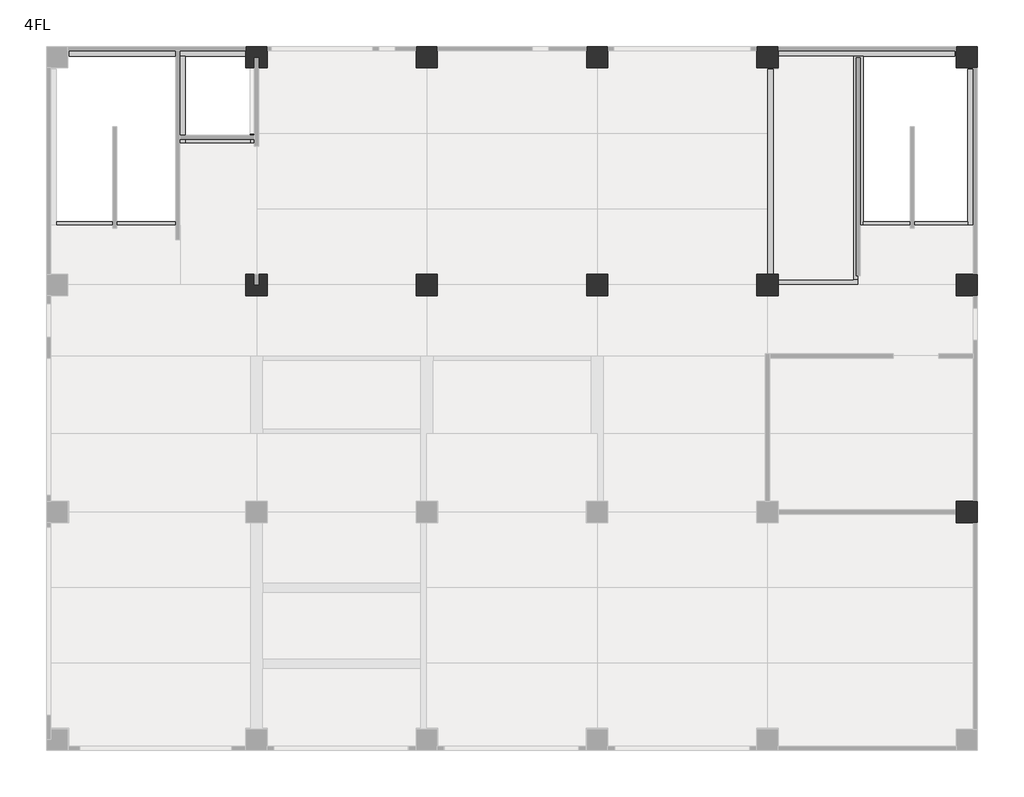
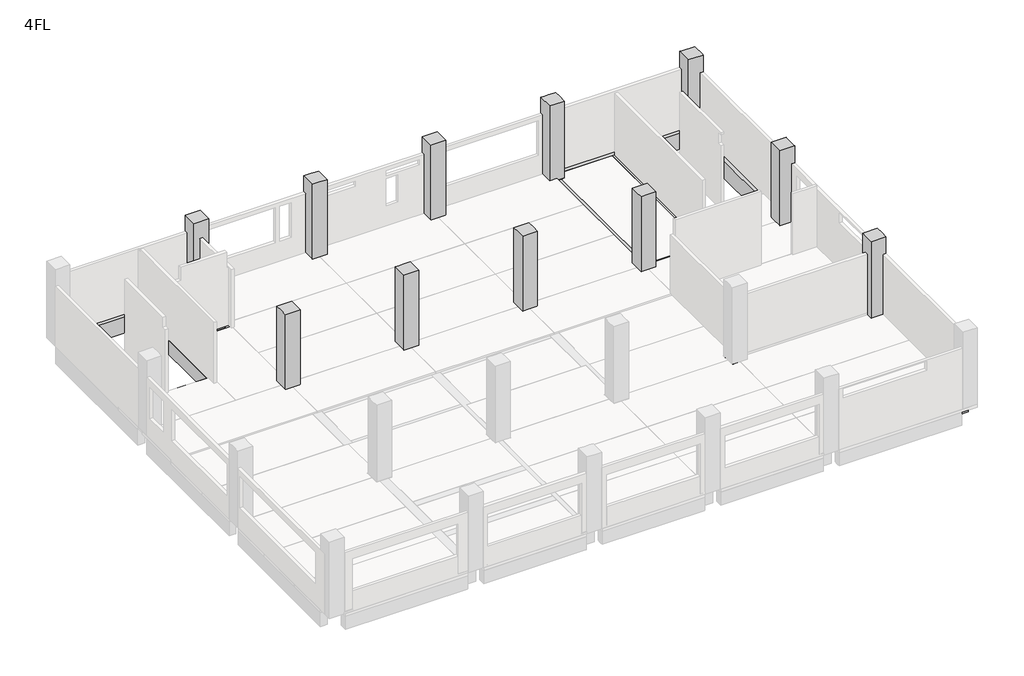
# One storey, part 4 of 4: 30 beams, 11 columns.
"""IFC4 building model written with IfcOpenShell, lengths in millimetres."""

from ifc_helpers import new_model, si_unit, frame, origin, place, context, project, spatial, polyline, outline, extrude, faceted_brep, element, save

model = new_model("IFC4")

# Units and contexts
model_context = context("Model", 3, world=origin())
ifc_project = project(units=[si_unit("LENGTHUNIT", "METRE", prefix="MILLI")], contexts=[model_context])

# Site, building, storey
site = spatial("IfcSite", under=ifc_project)
building = spatial("IfcBuilding", under=site)
storey = spatial("IfcBuildingStorey", under=building, Name="4FL", Elevation=12300.0)

# Beams
placement = place(None, origin())
element("IfcBeam", 1, ObjectType="RC_B : 4G1", at=placement, inside=storey, context=model_context, shape_type="Brep", body=[
    faceted_brep([(6600.0, 24400.0, 12200.0), (6600.0, 24400.0, 11350.0), (400.0, 24400.0, 11350.0), (400.0, 24400.0, 12200.0), (6600.0, 24250.0, 11350.0), (6600.0, 24050.0, 11350.0), (4294.0, 24050.0, 11350.0), (4144.0, 24050.0, 11350.0), (400.0, 24050.0, 11350.0), (400.0, 24250.0, 11350.0), (6600.0, 24050.0, 12200.0), (4494.0, 24050.0, 12200.0), (4144.0, 24050.0, 12200.0), (400.0, 24050.0, 12200.0)], [[[0, 1, 2, 3]], [[1, 4, 5, 6, 7, 8, 9, 2]], [[5, 10, 11, 12, 13, 8, 7, 6]], [[10, 0, 3, 13, 12, 11]], [[1, 0, 10, 5, 4]], [[3, 2, 9, 8, 13]]]),
])
element("IfcBeam", 2, ObjectType="RC_B : 4G1", at=placement, inside=storey, context=model_context, shape_type="Brep", body=[
    faceted_brep([(12600.0, 24400.0, 12140.0), (12600.0, 24400.0, 11350.0), (7400.0, 24400.0, 11350.0), (7400.0, 24400.0, 12140.0), (12600.0, 24250.0, 11350.0), (12600.0, 24050.0, 11350.0), (7400.0, 24050.0, 11350.0), (7400.0, 24250.0, 11350.0), (12600.0, 24050.0, 12140.0), (7400.0, 24050.0, 12140.0)], [[[0, 1, 2, 3]], [[1, 4, 5, 6, 7, 2]], [[5, 8, 9, 6]], [[5, 4, 1, 0, 8]], [[8, 0, 3, 9]], [[3, 2, 7, 6, 9]]]),
])
element("IfcBeam", 3, ObjectType="RC_B : 4G1", at=placement, inside=storey, context=model_context, shape_type="Brep", body=[
    faceted_brep([(18600.0, 24400.0, 12140.0), (18600.0, 24400.0, 11350.0), (13400.0, 24400.0, 11350.0), (13400.0, 24400.0, 12140.0), (18600.0, 24250.0, 11350.0), (18600.0, 24050.0, 11350.0), (13400.0, 24050.0, 11350.0), (13400.0, 24250.0, 11350.0), (18600.0, 24050.0, 12140.0), (13400.0, 24050.0, 12140.0)], [[[0, 1, 2, 3]], [[1, 4, 5, 6, 7, 2]], [[5, 8, 9, 6]], [[5, 4, 1, 0, 8]], [[8, 0, 3, 9]], [[3, 2, 7, 6, 9]]]),
])
element("IfcBeam", 4, ObjectType="RC_B : 4G1", at=placement, inside=storey, context=model_context, shape_type="Brep", body=[
    faceted_brep([(24600.0, 24400.0, 12140.0), (24600.0, 24400.0, 11350.0), (19400.0, 24400.0, 11350.0), (19400.0, 24400.0, 12140.0), (24600.0, 24250.0, 11350.0), (24600.0, 24050.0, 11350.0), (19400.0, 24050.0, 11350.0), (19400.0, 24250.0, 11350.0), (24600.0, 24050.0, 12140.0), (19400.0, 24050.0, 12140.0)], [[[0, 1, 2, 3]], [[1, 4, 5, 6, 7, 2]], [[5, 8, 9, 6]], [[5, 4, 1, 0, 8]], [[8, 0, 3, 9]], [[3, 2, 7, 6, 9]]]),
])
element("IfcBeam", 5, ObjectType="RC_B : 4G1", at=placement, inside=storey, context=model_context, shape_type="Brep", body=[
    faceted_brep([(31600.0, 24400.0, 12200.0), (31600.0, 24400.0, 11350.0), (25400.0, 24400.0, 11350.0), (25400.0, 24400.0, 12200.0), (31600.0, 24250.0, 11350.0), (31600.0, 24050.0, 11350.0), (25400.0, 24050.0, 11350.0), (25400.0, 24250.0, 11350.0), (31600.0, 24050.0, 12200.0), (28374.0, 24050.0, 12200.0), (28024.0, 24050.0, 12200.0), (25400.0, 24050.0, 12200.0), (25400.0, 24050.0, 12050.0)], [[[0, 1, 2, 3]], [[1, 4, 5, 6, 7, 2]], [[5, 8, 9, 10, 11, 12, 6]], [[8, 0, 3, 11, 10, 9]], [[1, 0, 8, 5, 4]], [[3, 2, 7, 6, 12, 11]]]),
])
element("IfcBeam", 6, ObjectType="RC_B : 4G11", at=placement, inside=storey, context=model_context, shape_type="Brep", body=[
    faceted_brep([(32050.0, 7600.0, 12050.0), (32050.0, 7600.0, 11300.0), (32050.0, 400.0, 11300.0), (32050.0, 400.0, 12050.0), (32050.0, 2485.0, 12050.0), (32050.0, 2835.0, 12050.0), (32050.0, 5155.0, 12050.0), (32050.0, 5505.0, 12050.0), (32250.0, 7600.0, 11300.0), (32400.0, 7600.0, 11300.0), (32400.0, 400.0, 11300.0), (32250.0, 400.0, 11300.0), (32400.0, 7600.0, 12050.0), (32400.0, 5328.0, 12050.0), (32400.0, 2664.0, 12050.0), (32400.0, 400.0, 12050.0)], [[[0, 1, 2, 3, 4, 5, 6, 7]], [[1, 8, 9, 10, 11, 2]], [[9, 12, 13, 14, 15, 10]], [[9, 8, 1, 0, 12]], [[12, 0, 7, 6, 5, 4, 3, 15, 14, 13]], [[3, 2, 11, 10, 15]]]),
])
element("IfcBeam", 7, ObjectType="RC_B : 4G11", at=placement, inside=storey, context=model_context, shape_type="Brep", body=[
    faceted_brep([(32050.0, 15600.0, 12140.0), (32050.0, 15600.0, 11300.0), (32050.0, 13575.0, 11300.0), (32050.0, 13575.0, 11450.0), (32050.0, 13425.0, 11450.0), (32050.0, 13425.0, 11300.0), (32050.0, 8400.0, 11300.0), (32050.0, 8400.0, 12140.0), (32050.0, 10575.0, 12140.0), (32050.0, 10925.0, 12140.0), (32050.0, 13325.0, 12140.0), (32050.0, 13675.0, 12140.0), (32250.0, 15600.0, 11300.0), (32400.0, 15600.0, 11300.0), (32400.0, 8400.0, 11300.0), (32250.0, 8400.0, 11300.0), (32250.0, 13425.0, 11300.0), (32250.0, 13575.0, 11300.0), (32400.0, 15600.0, 12140.0), (32400.0, 13504.0, 12140.0), (32400.0, 10752.0, 12140.0), (32400.0, 8400.0, 12140.0), (32250.0, 13575.0, 11450.0), (32250.0, 13425.0, 11450.0)], [[[0, 1, 2, 3, 4, 5, 6, 7, 8, 9, 10, 11]], [[1, 12, 13, 14, 15, 6, 5, 16, 17, 2]], [[13, 18, 19, 20, 21, 14]], [[13, 12, 1, 0, 18]], [[18, 0, 11, 10, 9, 8, 7, 21, 20, 19]], [[7, 6, 15, 14, 21]], [[17, 22, 3, 2]], [[4, 23, 16, 5]], [[22, 23, 4, 3]], [[23, 22, 17, 16]]]),
])
element("IfcBeam", 8, ObjectType="RC_B : 4G11", at=placement, inside=storey, context=model_context, shape_type="Brep", body=[
    faceted_brep([(32050.0, 23600.0, 12200.0), (32050.0, 23600.0, 11300.0), (32050.0, 16400.0, 11300.0), (32050.0, 16400.0, 12140.0), (32050.0, 17975.0, 12140.0), (32050.0, 18100.0, 12140.0), (32050.0, 18100.0, 12200.0), (32050.0, 18225.0, 12200.0), (32250.0, 23600.0, 11300.0), (32400.0, 23600.0, 11300.0), (32400.0, 16400.0, 11300.0), (32250.0, 16400.0, 11300.0), (32400.0, 23600.0, 12200.0), (32400.0, 18100.0, 12200.0), (32400.0, 18100.0, 12140.0), (32400.0, 16400.0, 12140.0), (32250.0, 18100.0, 12200.0)], [[[0, 1, 2, 3, 4, 5, 6, 7]], [[1, 8, 9, 10, 11, 2]], [[9, 12, 13, 14, 15, 10]], [[12, 0, 7, 6, 16, 13]], [[1, 0, 12, 9, 8]], [[14, 5, 4, 3, 15]], [[5, 14, 13, 16, 6]], [[3, 2, 11, 10, 15]]]),
])
element("IfcBeam", 9, ObjectType="RC_B : 4G12", at=placement, inside=storey, context=model_context, shape_type="Brep", body=[
    faceted_brep([(6775.0, 23600.0, 11300.0), (6775.0, 21275.0, 11300.0), (6775.0, 21125.0, 11300.0), (6775.0, 16000.0, 11300.0), (6775.0, 16000.0, 11350.0), (6775.0, 16175.0, 11350.0), (6775.0, 16175.0, 12140.0), (6775.0, 21000.0, 12140.0), (6775.0, 21000.0, 12200.0), (6775.0, 21125.0, 12200.0), (6775.0, 21275.0, 12200.0), (6775.0, 21328.0, 12200.0), (6775.0, 21328.0, 12140.0), (6775.0, 23600.0, 12140.0), (6925.0, 23600.0, 11300.0), (7075.0, 23600.0, 11300.0), (7225.0, 23600.0, 11300.0), (7225.0, 16000.0, 11300.0), (7225.0, 23600.0, 12140.0), (7225.0, 21503.0, 12140.0), (7225.0, 21503.0, 11450.0), (7225.0, 21153.0, 11450.0), (7225.0, 21153.0, 12140.0), (7225.0, 18845.0, 12140.0), (7225.0, 18845.0, 11450.0), (7225.0, 18495.0, 11450.0), (7225.0, 18495.0, 12140.0), (7225.0, 16175.0, 12140.0), (7225.0, 16000.0, 12140.0), (7000.0, 21000.0, 12200.0), (7000.0, 21328.0, 12200.0), (7000.0, 16000.0, 12140.0), (7000.0, 16000.0, 11350.0), (7000.0, 16175.0, 11350.0), (7000.0, 16175.0, 12140.0), (7087.7, 18495.0, 12140.0), (7087.7, 18664.0, 12140.0), (7087.7, 18845.0, 12140.0), (7087.7, 21153.0, 12140.0), (7087.7, 21328.0, 12140.0), (7087.7, 21503.0, 12140.0), (7000.0, 21328.0, 12140.0), (7000.0, 21000.0, 12140.0), (6912.3, 21000.0, 12140.0), (7087.7, 18495.0, 11450.0), (7087.7, 18845.0, 11450.0), (7087.7, 21153.0, 11450.0), (7087.7, 21503.0, 11450.0)], [[[0, 1, 2, 3, 4, 5, 6, 7, 8, 9, 10, 11, 12, 13]], [[0, 14, 15, 16, 17, 3, 2, 1]], [[17, 16, 18, 19, 20, 21, 22, 23, 24, 25, 26, 27, 28]], [[8, 29, 30, 11, 10, 9]], [[16, 15, 14, 0, 13, 18]], [[3, 17, 28, 31, 32, 4]], [[5, 33, 34, 6]], [[33, 5, 4, 32]], [[33, 32, 31, 34]], [[31, 28, 27, 26, 35, 36, 37, 23, 22, 38, 39, 40, 19, 18, 13, 12, 41, 42, 43, 7, 6, 34]], [[41, 30, 29, 42]], [[30, 41, 12, 11]], [[7, 43, 42, 29, 8]], [[44, 45, 37, 36, 35]], [[45, 24, 23, 37]], [[45, 44, 25, 24]], [[25, 44, 35, 26]], [[46, 47, 40, 39, 38]], [[47, 20, 19, 40]], [[47, 46, 21, 20]], [[21, 46, 38, 22]]]),
])
element("IfcBeam", 10, ObjectType="RC_B : 4G12", at=placement, inside=storey, context=model_context, shape_type="Brep", body=[
    faceted_brep([(12775.0, 23600.0, 11300.0), (12775.0, 16000.0, 11300.0), (12775.0, 16000.0, 11350.0), (12775.0, 16175.0, 11350.0), (12775.0, 16175.0, 12140.0), (12775.0, 21153.0, 12140.0), (12775.0, 21153.0, 11450.0), (12775.0, 21503.0, 11450.0), (12775.0, 21503.0, 12140.0), (12775.0, 23600.0, 12140.0), (13225.0, 23600.0, 11300.0), (13225.0, 16000.0, 11300.0), (13225.0, 23600.0, 12140.0), (13225.0, 21503.0, 12140.0), (13225.0, 21503.0, 11450.0), (13225.0, 21153.0, 11450.0), (13225.0, 21153.0, 12140.0), (13225.0, 16175.0, 12140.0), (13225.0, 16000.0, 12140.0), (13000.0, 23600.0, 12140.0), (13000.0, 16000.0, 12140.0), (13000.0, 16000.0, 11350.0), (13000.0, 16175.0, 11350.0), (13000.0, 16175.0, 12140.0), (13000.0, 21153.0, 12140.0), (13000.0, 21503.0, 12140.0)], [[[0, 1, 2, 3, 4, 5, 6, 7, 8, 9]], [[0, 10, 11, 1]], [[11, 10, 12, 13, 14, 15, 16, 17, 18]], [[10, 0, 9, 19, 12]], [[1, 11, 18, 20, 21, 2]], [[3, 22, 23, 4]], [[22, 3, 2, 21]], [[22, 21, 20, 23]], [[4, 23, 20, 18, 17, 16, 24, 5]], [[7, 14, 13, 25, 8]], [[14, 7, 6, 15]], [[15, 6, 5, 24, 16]], [[12, 19, 9, 8, 25, 13]]]),
])
element("IfcBeam", 11, ObjectType="RC_B : 4G12", at=placement, inside=storey, context=model_context, shape_type="Brep", body=[
    faceted_brep([(18775.0, 23600.0, 11300.0), (18775.0, 16000.0, 11300.0), (18775.0, 16000.0, 11350.0), (18775.0, 16175.0, 11350.0), (18775.0, 16175.0, 12140.0), (18775.0, 21153.0, 12140.0), (18775.0, 21153.0, 11450.0), (18775.0, 21503.0, 11450.0), (18775.0, 21503.0, 12140.0), (18775.0, 23600.0, 12140.0), (19225.0, 23600.0, 11300.0), (19225.0, 16000.0, 11300.0), (19225.0, 23600.0, 12140.0), (19225.0, 21503.0, 12140.0), (19225.0, 21503.0, 11450.0), (19225.0, 21153.0, 11450.0), (19225.0, 21153.0, 12140.0), (19225.0, 16175.0, 12140.0), (19225.0, 16000.0, 12140.0), (19000.0, 23600.0, 12140.0), (19000.0, 16000.0, 12140.0), (19000.0, 16000.0, 11350.0), (19000.0, 16175.0, 11350.0), (19000.0, 16175.0, 12140.0), (19000.0, 21153.0, 12140.0), (19000.0, 21503.0, 12140.0)], [[[0, 1, 2, 3, 4, 5, 6, 7, 8, 9]], [[0, 10, 11, 1]], [[11, 10, 12, 13, 14, 15, 16, 17, 18]], [[10, 0, 9, 19, 12]], [[1, 11, 18, 20, 21, 2]], [[3, 22, 23, 4]], [[22, 3, 2, 21]], [[22, 21, 20, 23]], [[4, 23, 20, 18, 17, 16, 24, 5]], [[7, 14, 13, 25, 8]], [[14, 7, 6, 15]], [[15, 6, 5, 24, 16]], [[12, 19, 9, 8, 25, 13]]]),
])
element("IfcBeam", 12, ObjectType="RC_B : 4G12", at=placement, inside=storey, context=model_context, shape_type="Brep", body=[
    faceted_brep([(24775.0, 15600.0, 11300.0), (24775.0, 8000.0, 11300.0), (24775.0, 8000.0, 11350.0), (24775.0, 8175.0, 11350.0), (24775.0, 8175.0, 12050.0), (24775.0, 10575.0, 12050.0), (24775.0, 10925.0, 12050.0), (24775.0, 13325.0, 12050.0), (24775.0, 13325.0, 11450.0), (24775.0, 13675.0, 11450.0), (24775.0, 13675.0, 12140.0), (24775.0, 15600.0, 12140.0), (25225.0, 15600.0, 11300.0), (25225.0, 8075.0, 11300.0), (24925.0, 8075.0, 11300.0), (24925.0, 8000.0, 11300.0), (25225.0, 15600.0, 12140.0), (25225.0, 13675.0, 12140.0), (25225.0, 13325.0, 12140.0), (25225.0, 10925.0, 12140.0), (25225.0, 10575.0, 12140.0), (25225.0, 8175.0, 12140.0), (25225.0, 8000.0, 12140.0), (25225.0, 8000.0, 12050.0), (25225.0, 8000.0, 11350.0), (25225.0, 8075.0, 11350.0), (25000.0, 15600.0, 12140.0), (25000.0, 8000.0, 12140.0), (25000.0, 8000.0, 11350.0), (25000.0, 8175.0, 11350.0), (25000.0, 8175.0, 12050.0), (24925.0, 8000.0, 11350.0), (24925.0, 8075.0, 11350.0), (25000.0, 8075.0, 11350.0), (25000.0, 8400.0, 12140.0), (25000.0, 10752.0, 12140.0), (25000.0, 13504.0, 12140.0), (25000.0, 13504.0, 12050.0), (25000.0, 10752.0, 12050.0), (25000.0, 8400.0, 12050.0), (24912.3, 13675.0, 12140.0), (24912.3, 13504.0, 12140.0), (24912.3, 13504.0, 12050.0), (24912.3, 13325.0, 12050.0), (24912.3, 13675.0, 11450.0), (24912.3, 13325.0, 11450.0)], [[[0, 1, 2, 3, 4, 5, 6, 7, 8, 9, 10, 11]], [[0, 12, 13, 14, 15, 1]], [[12, 16, 17, 18, 19, 20, 21, 22, 23, 24, 25, 13]], [[12, 0, 11, 26, 16]], [[27, 28, 24, 23, 22]], [[3, 29, 30, 4]], [[29, 3, 2, 31, 32, 33]], [[30, 29, 33, 28, 27, 34, 35, 36, 37, 38, 39]], [[16, 26, 11, 10, 40, 41, 36, 35, 34, 27, 22, 21, 20, 19, 18, 17]], [[4, 30, 39, 38, 37, 42, 43, 7, 6, 5]], [[37, 36, 41, 42]], [[14, 13, 25, 33, 32]], [[25, 24, 28, 33]], [[2, 1, 15, 31]], [[14, 32, 31, 15]], [[9, 44, 40, 10]], [[45, 44, 9, 8]], [[45, 8, 7, 43]], [[44, 45, 43, 42, 41, 40]]]),
])
element("IfcBeam", 13, ObjectType="RC_B : 4G12", at=placement, inside=storey, context=model_context, shape_type="Brep", body=[
    faceted_brep([(24775.0, 23600.0, 11300.0), (24775.0, 16000.0, 11300.0), (24775.0, 16000.0, 11350.0), (24775.0, 16175.0, 11350.0), (24775.0, 16175.0, 12140.0), (24775.0, 23600.0, 12140.0), (25225.0, 23600.0, 11300.0), (25225.0, 16000.0, 11300.0), (25225.0, 23600.0, 12050.0), (25225.0, 23600.0, 12200.0), (25225.0, 16400.0, 12200.0), (25225.0, 16175.0, 12200.0), (25225.0, 16000.0, 12200.0), (25225.0, 16000.0, 12140.0), (25000.0, 23600.0, 12200.0), (25000.0, 16000.0, 12200.0), (25000.0, 23600.0, 12140.0), (25000.0, 16000.0, 11350.0), (25000.0, 16175.0, 11350.0), (25000.0, 16175.0, 12140.0), (25000.0, 21503.0, 12140.0), (25000.0, 21153.0, 12140.0), (25000.0, 18845.0, 12140.0), (25000.0, 18495.0, 12140.0), (25000.0, 16400.0, 12140.0)], [[[0, 1, 2, 3, 4, 5]], [[0, 6, 7, 1]], [[6, 8, 9, 10, 11, 12, 13, 7]], [[12, 11, 10, 9, 14, 15]], [[6, 0, 5, 16, 14, 9, 8]], [[1, 7, 13, 12, 15, 17, 2]], [[3, 18, 19, 4]], [[18, 3, 2, 17]], [[18, 17, 15, 14, 16, 20, 21, 22, 23, 24, 19]], [[4, 19, 24, 23, 22, 21, 20, 16, 5]]]),
])
element("IfcBeam", 14, ObjectType="RC_B : 4G2", at=placement, inside=storey, context=model_context, shape_type="Brep", body=[
    faceted_brep([(6600.0, 16175.0, 11350.0), (0.0, 16175.0, 11350.0), (0.0, 16175.0, 12140.0), (6600.0, 16175.0, 12140.0), (6600.0, 15825.0, 11350.0), (0.0, 15825.0, 11350.0), (6600.0, 15825.0, 12140.0), (0.0, 15825.0, 12140.0), (6600.0, 16000.0, 12140.0)], [[[0, 1, 2, 3]], [[0, 4, 5, 1]], [[5, 4, 6, 7]], [[4, 0, 3, 8, 6]], [[1, 5, 7, 2]], [[7, 6, 8, 3, 2]]]),
])
element("IfcBeam", 15, ObjectType="RC_B : 4G2", at=placement, inside=storey, context=model_context, shape_type="Brep", body=[
    faceted_brep([(12600.0, 16175.0, 11350.0), (7225.0, 16175.0, 11350.0), (7225.0, 16175.0, 12140.0), (12600.0, 16175.0, 12140.0), (12600.0, 15825.0, 11350.0), (7225.0, 15825.0, 11350.0), (12600.0, 15825.0, 12140.0), (7225.0, 15825.0, 12140.0), (12600.0, 16000.0, 12140.0), (7225.0, 16000.0, 12140.0)], [[[0, 1, 2, 3]], [[0, 4, 5, 1]], [[5, 4, 6, 7]], [[4, 0, 3, 8, 6]], [[1, 5, 7, 9, 2]], [[7, 6, 8, 3, 2, 9]]]),
])
element("IfcBeam", 16, ObjectType="RC_B : 4G2", at=placement, inside=storey, context=model_context, shape_type="Brep", body=[
    faceted_brep([(18600.0, 16175.0, 11350.0), (13225.0, 16175.0, 11350.0), (13225.0, 16175.0, 12140.0), (18600.0, 16175.0, 12140.0), (18600.0, 15825.0, 11350.0), (13225.0, 15825.0, 11350.0), (18600.0, 15825.0, 12140.0), (13225.0, 15825.0, 12140.0), (18600.0, 16000.0, 12140.0), (13225.0, 16000.0, 12140.0)], [[[0, 1, 2, 3]], [[0, 4, 5, 1]], [[5, 4, 6, 7]], [[4, 0, 3, 8, 6]], [[1, 5, 7, 9, 2]], [[7, 6, 8, 3, 2, 9]]]),
])
element("IfcBeam", 17, ObjectType="RC_B : 4G2", at=placement, inside=storey, context=model_context, shape_type="Brep", body=[
    faceted_brep([(24600.0, 16175.0, 11350.0), (19225.0, 16175.0, 11350.0), (19225.0, 16175.0, 12140.0), (24600.0, 16175.0, 12140.0), (24600.0, 15825.0, 11350.0), (19225.0, 15825.0, 11350.0), (24600.0, 15825.0, 12140.0), (19225.0, 15825.0, 12140.0), (24600.0, 16000.0, 12140.0), (19225.0, 16000.0, 12140.0)], [[[0, 1, 2, 3]], [[0, 4, 5, 1]], [[5, 4, 6, 7]], [[4, 0, 3, 8, 6]], [[1, 5, 7, 9, 2]], [[7, 6, 8, 3, 2, 9]]]),
])
element("IfcBeam", 18, ObjectType="RC_B : 4G2", at=placement, inside=storey, context=model_context, shape_type="Brep", body=[
    faceted_brep([(31600.0, 16175.0, 11350.0), (25225.0, 16175.0, 11350.0), (25225.0, 16175.0, 12200.0), (25400.0, 16175.0, 12200.0), (28024.0, 16175.0, 12200.0), (28199.0, 16175.0, 12200.0), (28199.0, 16175.0, 12140.0), (31600.0, 16175.0, 12140.0), (31600.0, 15825.0, 11350.0), (25225.0, 15825.0, 11350.0), (31600.0, 15825.0, 12140.0), (25225.0, 15825.0, 12140.0), (25225.0, 16000.0, 12200.0), (28199.0, 16000.0, 12200.0), (31600.0, 16000.0, 12140.0), (25225.0, 16000.0, 12140.0), (28199.0, 16000.0, 12140.0), (25400.0, 16000.0, 12140.0)], [[[0, 1, 2, 3, 4, 5, 6, 7]], [[0, 8, 9, 1]], [[9, 8, 10, 11]], [[2, 12, 13, 5, 4, 3]], [[8, 0, 7, 14, 10]], [[2, 1, 9, 11, 15, 12]], [[11, 10, 14, 7, 6, 16, 17, 15]], [[12, 15, 17, 16, 13]], [[16, 6, 5, 13]]]),
])
element("IfcBeam", 19, ObjectType="RC_B : B1", at=placement, inside=storey, context=model_context, shape_type="Brep", body=[
    faceted_brep([(7087.7, 18845.0, 12200.0), (7087.7, 18845.0, 12140.0), (7087.7, 18845.0, 11450.0), (7087.7, 18495.0, 11450.0), (7087.7, 18495.0, 12140.0), (7087.7, 18495.0, 12200.0), (7087.7, 18664.0, 12200.0), (12775.0, 18845.0, 12200.0), (12775.0, 18845.0, 11450.0), (7225.0, 18845.0, 11450.0), (12775.0, 18495.0, 11450.0), (7225.0, 18495.0, 11450.0), (12775.0, 18495.0, 12200.0)], [[[0, 1, 2, 3, 4, 5, 6]], [[2, 1, 0, 7, 8, 9]], [[3, 2, 9, 8, 10, 11]], [[5, 4, 3, 11, 10, 12]], [[0, 6, 5, 12, 7]], [[8, 7, 12, 10]]]),
])
element("IfcBeam", 20, ObjectType="RC_B : B1", at=placement, inside=storey, context=model_context, shape_type="Brep", body=[
    faceted_brep([(7087.7, 21503.0, 12200.0), (7087.7, 21503.0, 12140.0), (7087.7, 21503.0, 11450.0), (7087.7, 21153.0, 11450.0), (7087.7, 21153.0, 12140.0), (7087.7, 21153.0, 12200.0), (7087.7, 21328.0, 12200.0), (12775.0, 21503.0, 12200.0), (12775.0, 21503.0, 11450.0), (7225.0, 21503.0, 11450.0), (12775.0, 21153.0, 11450.0), (7225.0, 21153.0, 11450.0), (12775.0, 21153.0, 12200.0)], [[[0, 1, 2, 3, 4, 5, 6]], [[2, 1, 0, 7, 8, 9]], [[3, 2, 9, 8, 10, 11]], [[5, 4, 3, 11, 10, 12]], [[0, 6, 5, 12, 7]], [[8, 7, 12, 10]]]),
])
element("IfcBeam", 21, ObjectType="RC_B : B1", at=placement, inside=storey, context=model_context, shape_type="SweptSolid", body=[
    extrude(outline(polyline([(13225.0, 18495.0), (13225.0, 18845.0), (18775.0, 18845.0), (18775.0, 18495.0), (13225.0, 18495.0)])), frame((0.0, 0.0, 11450.0), z_axis=(0.0, 0.0, 1.0), x_axis=(1.0, 0.0, 0.0)), (0.0, 0.0, 1.0), 750.0),
])
element("IfcBeam", 22, ObjectType="RC_B : B1", at=placement, inside=storey, context=model_context, shape_type="Brep", body=[
    faceted_brep([(19225.0, 21503.0, 12140.0), (19225.0, 21503.0, 11450.0), (18775.0, 21503.0, 11450.0), (13225.0, 21503.0, 11450.0), (13225.0, 21503.0, 12200.0), (19000.0, 21503.0, 12200.0), (19000.0, 21503.0, 12140.0), (19225.0, 21153.0, 11450.0), (18775.0, 21153.0, 11450.0), (13225.0, 21153.0, 11450.0), (19225.0, 21153.0, 12140.0), (19000.0, 21153.0, 12140.0), (19000.0, 21153.0, 12200.0), (13225.0, 21153.0, 12200.0), (19000.0, 21328.0, 12200.0)], [[[0, 1, 2, 3, 4, 5, 6]], [[1, 7, 8, 9, 3, 2]], [[7, 10, 11, 12, 13, 9, 8]], [[12, 14, 5, 4, 13]], [[7, 1, 0, 10]], [[11, 10, 0, 6]], [[12, 11, 6, 5, 14]], [[4, 3, 9, 13]]]),
])
element("IfcBeam", 23, ObjectType="RC_B : B1", at=placement, inside=storey, context=model_context, shape_type="SweptSolid", body=[
    extrude(outline(polyline([(24775.0, 18845.0), (24775.0, 18495.0), (19225.0, 18495.0), (19225.0, 18845.0), (24775.0, 18845.0)])), frame((0.0, 0.0, 11450.0), z_axis=(0.0, 0.0, 1.0), x_axis=(1.0, 0.0, 0.0)), (0.0, 0.0, 1.0), 750.0),
])
element("IfcBeam", 24, ObjectType="RC_B : B1", at=placement, inside=storey, context=model_context, shape_type="Brep", body=[
    faceted_brep([(24775.0, 21503.0, 12200.0), (24775.0, 21503.0, 11450.0), (19225.0, 21503.0, 11450.0), (18775.0, 21503.0, 11450.0), (18775.0, 21503.0, 12140.0), (19000.0, 21503.0, 12140.0), (19000.0, 21503.0, 12200.0), (24775.0, 21153.0, 11450.0), (19225.0, 21153.0, 11450.0), (18775.0, 21153.0, 11450.0), (24775.0, 21153.0, 12200.0), (19000.0, 21153.0, 12200.0), (19000.0, 21153.0, 12140.0), (18775.0, 21153.0, 12140.0), (19000.0, 21328.0, 12200.0)], [[[0, 1, 2, 3, 4, 5, 6]], [[1, 7, 8, 9, 3, 2]], [[7, 10, 11, 12, 13, 9, 8]], [[10, 0, 6, 14, 11]], [[1, 0, 10, 7]], [[3, 9, 13, 4]], [[5, 4, 13, 12]], [[5, 12, 11, 14, 6]]]),
])
element("IfcBeam", 25, ObjectType="RC_B : B2", at=placement, inside=storey, context=model_context, shape_type="Brep", body=[
    faceted_brep([(32050.0, 13675.0, 11450.0), (25225.0, 13675.0, 11450.0), (25225.0, 13675.0, 12140.0), (32050.0, 13675.0, 12140.0), (25225.0, 13325.0, 11450.0), (32050.0, 13575.0, 11450.0), (32050.0, 13425.0, 11450.0), (32050.0, 13325.0, 11450.0), (32050.0, 13325.0, 12140.0), (25225.0, 13325.0, 12140.0)], [[[0, 1, 2, 3]], [[4, 1, 0, 5, 6, 7]], [[4, 7, 8, 9]], [[1, 4, 9, 2]], [[7, 6, 5, 0, 3, 8]], [[9, 8, 3, 2]]]),
])
element("IfcBeam", 26, ObjectType="RC_B : B3", at=placement, inside=storey, context=model_context, shape_type="Brep", body=[
    faceted_brep([(4144.0, 18225.0, 12200.0), (4144.0, 18225.0, 11600.0), (2075.0, 18225.0, 11600.0), (1925.0, 18225.0, 11600.0), (-50.0, 18225.0, 11600.0), (-50.0, 18225.0, 12200.0), (1925.0, 18225.0, 12200.0), (2075.0, 18225.0, 12200.0), (4144.0, 17975.0, 11600.0), (-50.0, 17975.0, 11600.0), (4144.0, 17975.0, 12140.0), (-50.0, 17975.0, 12140.0), (-50.0, 18100.0, 12200.0), (4144.0, 18100.0, 12200.0), (4144.0, 18100.0, 12140.0), (-50.0, 18100.0, 12140.0)], [[[0, 1, 2, 3, 4, 5, 6, 7]], [[1, 8, 9, 4, 3, 2]], [[9, 8, 10, 11]], [[0, 7, 6, 5, 12, 13]], [[1, 0, 13, 14, 10, 8]], [[5, 4, 9, 11, 15, 12]], [[14, 15, 11, 10]], [[15, 14, 13, 12]]]),
])
element("IfcBeam", 27, ObjectType="RC_B : B3", at=placement, inside=storey, context=model_context, shape_type="Brep", body=[
    faceted_brep([(6775.0, 21125.0, 12200.0), (6775.0, 21125.0, 11600.0), (4494.0, 21125.0, 11600.0), (4494.0, 21125.0, 12200.0), (6775.0, 20875.0, 11600.0), (4494.0, 20875.0, 11600.0), (6775.0, 20875.0, 12200.0), (4494.0, 20875.0, 12200.0), (6775.0, 21000.0, 12200.0)], [[[0, 1, 2, 3]], [[1, 4, 5, 2]], [[4, 6, 7, 5]], [[6, 8, 0, 3, 7]], [[1, 0, 8, 6, 4]], [[3, 2, 5, 7]]]),
])
element("IfcBeam", 28, ObjectType="RC_B : B3", at=placement, inside=storey, context=model_context, shape_type="Brep", body=[
    faceted_brep([(28374.0, 18225.0, 11600.0), (28374.0, 18225.0, 12200.0), (30025.0, 18225.0, 12200.0), (30175.0, 18225.0, 12200.0), (32050.0, 18225.0, 12200.0), (32050.0, 18225.0, 11600.0), (30175.0, 18225.0, 11600.0), (30025.0, 18225.0, 11600.0), (28374.0, 17975.0, 11600.0), (32050.0, 17975.0, 11600.0), (32050.0, 17975.0, 12140.0), (28374.0, 17975.0, 12140.0), (28374.0, 18100.0, 12200.0), (32050.0, 18100.0, 12200.0), (28374.0, 18100.0, 12140.0), (32050.0, 18100.0, 12140.0)], [[[0, 1, 2, 3, 4, 5, 6, 7]], [[8, 0, 7, 6, 5, 9]], [[8, 9, 10, 11]], [[4, 3, 2, 1, 12, 13]], [[1, 0, 8, 11, 14, 12]], [[5, 4, 13, 15, 10, 9]], [[15, 14, 11, 10]], [[14, 15, 13, 12]]]),
])
element("IfcBeam", 29, ObjectType="RC_B : B4", at=placement, inside=storey, context=model_context, shape_type="Brep", body=[
    faceted_brep([(4144.0, 16175.0, 11450.0), (4144.0, 16175.0, 12200.0), (4144.0, 17600.0, 12200.0), (4144.0, 18100.0, 12200.0), (4144.0, 18225.0, 12200.0), (4144.0, 24050.0, 12200.0), (4144.0, 24050.0, 11450.0), (4144.0, 17600.0, 11450.0), (4494.0, 16175.0, 11450.0), (4294.0, 24050.0, 11450.0), (4494.0, 24050.0, 11450.0), (4494.0, 21275.0, 11450.0), (4494.0, 21125.0, 11450.0), (4494.0, 16175.0, 12200.0), (4494.0, 24050.0, 12200.0), (4494.0, 21275.0, 12200.0), (4494.0, 21125.0, 12200.0), (4494.0, 20875.0, 12200.0)], [[[0, 1, 2, 3, 4, 5, 6, 7]], [[8, 0, 7, 6, 9, 10, 11, 12]], [[13, 8, 12, 11, 10, 14, 15, 16, 17]], [[1, 13, 17, 16, 15, 14, 5, 4, 3, 2]], [[1, 0, 8, 13]], [[6, 5, 14, 10, 9]]]),
])
element("IfcBeam", 30, ObjectType="RC_B : B4", at=placement, inside=storey, context=model_context, shape_type="Brep", body=[
    faceted_brep([(28024.0, 16175.0, 11450.0), (28024.0, 16175.0, 12050.0), (28024.0, 16175.0, 12200.0), (28024.0, 24050.0, 12200.0), (28024.0, 24050.0, 12050.0), (28024.0, 24050.0, 11450.0), (28374.0, 16175.0, 11450.0), (28374.0, 24050.0, 11450.0), (28374.0, 16175.0, 12200.0), (28374.0, 24050.0, 12200.0), (28374.0, 18225.0, 12200.0), (28374.0, 18100.0, 12200.0), (28199.0, 16175.0, 12200.0)], [[[0, 1, 2, 3, 4, 5]], [[6, 0, 5, 7]], [[8, 6, 7, 9, 10, 11]], [[2, 12, 8, 11, 10, 9, 3]], [[2, 1, 0, 6, 8, 12]], [[5, 4, 3, 9, 7]]]),
])

# Columns
element("IfcColumn", 31, ObjectType="RC_C_B : 4C1", at=placement, inside=storey, context=model_context, shape_type="Brep", body=[
    faceted_brep([(32400.0, 8375.0, 12200.0), (32400.0, 8000.0, 12200.0), (32400.0, 7625.0, 12200.0), (32250.0, 7625.0, 12200.0), (31650.0, 7625.0, 12200.0), (31650.0, 7925.0, 12200.0), (31650.0, 8000.0, 12200.0), (31650.0, 8075.0, 12200.0), (31650.0, 8375.0, 12200.0), (32400.0, 8375.0, 16300.0), (32400.0, 8000.0, 16300.0), (32400.0, 7625.0, 16300.0), (32400.0, 7625.0, 16240.0), (32400.0, 7625.0, 15400.0), (32400.0, 8375.0, 12290.0), (32400.0, 8375.0, 15400.0), (32400.0, 8375.0, 16240.0), (31650.0, 7625.0, 16300.0), (31650.0, 7625.0, 16240.0), (31650.0, 8000.0, 16300.0), (31650.0, 8375.0, 16300.0), (31650.0, 8375.0, 16240.0), (31650.0, 8375.0, 12290.0)], [[[0, 1, 2, 3, 4, 5, 6, 7, 8]], [[9, 10, 11, 12, 13, 2, 1, 0, 14, 15, 16]], [[11, 17, 18, 4, 3, 2, 13, 12]], [[17, 19, 20, 21, 22, 8, 7, 6, 5, 4, 18]], [[20, 9, 16, 15, 14, 0, 8, 22, 21]], [[9, 20, 19, 17, 11, 10]]]),
])
element("IfcColumn", 32, ObjectType="RC_C_B : 4C1", at=placement, inside=storey, context=model_context, shape_type="Brep", body=[
    faceted_brep([(7375.0, 16375.0, 12200.0), (7375.0, 16000.0, 12200.0), (7375.0, 15625.0, 12200.0), (7000.0, 15625.0, 12200.0), (6625.0, 15625.0, 12200.0), (6625.0, 16000.0, 12200.0), (6625.0, 16375.0, 12200.0), (7000.0, 16375.0, 12200.0), (7375.0, 16375.0, 16300.0), (7375.0, 16000.0, 16300.0), (7375.0, 15625.0, 16300.0), (7375.0, 15625.0, 16240.0), (7375.0, 15625.0, 12290.0), (7375.0, 16375.0, 12290.0), (7375.0, 16375.0, 16240.0), (7000.0, 15625.0, 16300.0), (6625.0, 15625.0, 16300.0), (6625.0, 15625.0, 16240.0), (6625.0, 15625.0, 12290.0), (6625.0, 16000.0, 16300.0), (6625.0, 16375.0, 16300.0), (6625.0, 16375.0, 16240.0), (6625.0, 16375.0, 12290.0), (7000.0, 16375.0, 16300.0)], [[[0, 1, 2, 3, 4, 5, 6, 7]], [[8, 9, 10, 11, 12, 2, 1, 0, 13, 14]], [[10, 15, 16, 17, 18, 4, 3, 2, 12, 11]], [[16, 19, 20, 21, 22, 6, 5, 4, 18, 17]], [[20, 23, 8, 14, 13, 0, 7, 6, 22, 21]], [[8, 23, 20, 19, 16, 15, 10, 9]]]),
])
element("IfcColumn", 33, ObjectType="RC_C_B : 4C1", at=placement, inside=storey, context=model_context, shape_type="Brep", body=[
    faceted_brep([(13375.0, 16375.0, 12200.0), (13375.0, 16000.0, 12200.0), (13375.0, 15625.0, 12200.0), (13000.0, 15625.0, 12200.0), (12625.0, 15625.0, 12200.0), (12625.0, 16000.0, 12200.0), (12625.0, 16375.0, 12200.0), (13000.0, 16375.0, 12200.0), (13375.0, 16375.0, 16300.0), (13375.0, 16000.0, 16300.0), (13375.0, 15625.0, 16300.0), (13375.0, 15625.0, 16240.0), (13375.0, 15625.0, 12290.0), (13375.0, 16375.0, 12290.0), (13375.0, 16375.0, 16240.0), (13000.0, 15625.0, 16300.0), (12625.0, 15625.0, 16300.0), (12625.0, 15625.0, 16240.0), (12625.0, 15625.0, 12290.0), (12625.0, 15825.0, 16300.0), (12625.0, 16000.0, 16300.0), (12625.0, 16175.0, 16300.0), (12625.0, 16375.0, 16300.0), (12625.0, 16375.0, 16240.0), (12625.0, 16375.0, 12290.0), (12825.0, 16375.0, 16300.0), (13000.0, 16375.0, 16300.0)], [[[0, 1, 2, 3, 4, 5, 6, 7]], [[8, 9, 10, 11, 12, 2, 1, 0, 13, 14]], [[10, 15, 16, 17, 18, 4, 3, 2, 12, 11]], [[16, 19, 20, 21, 22, 23, 24, 6, 5, 4, 18, 17]], [[22, 25, 26, 8, 14, 13, 0, 7, 6, 24, 23]], [[8, 26, 25, 22, 21, 20, 19, 16, 15, 10, 9]]]),
])
element("IfcColumn", 34, ObjectType="RC_C_B : 4C1", at=placement, inside=storey, context=model_context, shape_type="Brep", body=[
    faceted_brep([(19375.0, 16375.0, 12200.0), (19375.0, 16000.0, 12200.0), (19375.0, 15625.0, 12200.0), (19000.0, 15625.0, 12200.0), (18625.0, 15625.0, 12200.0), (18625.0, 16000.0, 12200.0), (18625.0, 16375.0, 12200.0), (19000.0, 16375.0, 12200.0), (19375.0, 16375.0, 16300.0), (19375.0, 16000.0, 16300.0), (19375.0, 15625.0, 16300.0), (19375.0, 15625.0, 16240.0), (19375.0, 15625.0, 12290.0), (19375.0, 16375.0, 12290.0), (19375.0, 16375.0, 16240.0), (19000.0, 15625.0, 16300.0), (18625.0, 15625.0, 16300.0), (18625.0, 15625.0, 16240.0), (18625.0, 15625.0, 12290.0), (18625.0, 16000.0, 16300.0), (18625.0, 16375.0, 16300.0), (18625.0, 16375.0, 16240.0), (18625.0, 16375.0, 12290.0), (19000.0, 16375.0, 16300.0)], [[[0, 1, 2, 3, 4, 5, 6, 7]], [[8, 9, 10, 11, 12, 2, 1, 0, 13, 14]], [[10, 15, 16, 17, 18, 4, 3, 2, 12, 11]], [[16, 19, 20, 21, 22, 6, 5, 4, 18, 17]], [[20, 23, 8, 14, 13, 0, 7, 6, 22, 21]], [[8, 23, 20, 19, 16, 15, 10, 9]]]),
])
element("IfcColumn", 35, ObjectType="RC_C_B : 4C1", at=placement, inside=storey, context=model_context, shape_type="Brep", body=[
    faceted_brep([(25375.0, 16375.0, 12200.0), (25375.0, 16000.0, 12200.0), (25375.0, 15625.0, 12200.0), (25000.0, 15625.0, 12200.0), (24625.0, 15625.0, 12200.0), (24625.0, 16000.0, 12200.0), (24625.0, 16375.0, 12200.0), (25000.0, 16375.0, 12200.0), (25375.0, 16375.0, 16300.0), (25375.0, 16000.0, 16300.0), (25375.0, 15625.0, 16300.0), (25375.0, 15625.0, 16240.0), (25375.0, 15625.0, 12290.0), (25375.0, 16375.0, 16240.0), (25000.0, 15625.0, 16300.0), (24625.0, 15625.0, 16300.0), (24625.0, 15625.0, 16240.0), (24625.0, 15625.0, 12290.0), (24625.0, 16000.0, 16300.0), (24625.0, 16375.0, 16300.0), (24625.0, 16375.0, 16240.0), (24625.0, 16375.0, 12290.0), (25000.0, 16375.0, 16300.0)], [[[0, 1, 2, 3, 4, 5, 6, 7]], [[8, 9, 10, 11, 12, 2, 1, 0, 13]], [[10, 14, 15, 16, 17, 4, 3, 2, 12, 11]], [[15, 18, 19, 20, 21, 6, 5, 4, 17, 16]], [[19, 22, 8, 13, 0, 7, 6, 21, 20]], [[8, 22, 19, 18, 15, 14, 10, 9]]]),
])
element("IfcColumn", 36, ObjectType="RC_C_B : 4C1", at=placement, inside=storey, context=model_context, shape_type="Brep", body=[
    faceted_brep([(32400.0, 16375.0, 12200.0), (32400.0, 15625.0, 12200.0), (31650.0, 15625.0, 12200.0), (31650.0, 16000.0, 12200.0), (31650.0, 16375.0, 12200.0), (32400.0, 16375.0, 16300.0), (32400.0, 16350.0, 16300.0), (32400.0, 15650.0, 16300.0), (32400.0, 15625.0, 16300.0), (32400.0, 15625.0, 16240.0), (32400.0, 15625.0, 15400.0), (32400.0, 15625.0, 12290.0), (32400.0, 16375.0, 12290.0), (32400.0, 16375.0, 15400.0), (32400.0, 16375.0, 16240.0), (31650.0, 15625.0, 16300.0), (31650.0, 15625.0, 16240.0), (31650.0, 15625.0, 12290.0), (31650.0, 16000.0, 16300.0), (31650.0, 16375.0, 16300.0), (31650.0, 16375.0, 16240.0), (31650.0, 16375.0, 12290.0)], [[[0, 1, 2, 3, 4]], [[5, 6, 7, 8, 9, 10, 11, 1, 0, 12, 13, 14]], [[8, 15, 16, 17, 2, 1, 11, 10, 9]], [[15, 18, 19, 20, 21, 4, 3, 2, 17, 16]], [[19, 5, 14, 13, 12, 0, 4, 21, 20]], [[5, 19, 18, 15, 8, 7, 6]]]),
])
element("IfcColumn", 37, ObjectType="RC_C_B : 4C1", at=placement, inside=storey, context=model_context, shape_type="Brep", body=[
    faceted_brep([(6625.0, 23650.0, 12200.0), (6625.0, 24250.0, 12200.0), (6625.0, 24400.0, 12200.0), (6775.0, 24400.0, 12200.0), (6775.0, 23650.0, 12200.0), (7375.0, 24400.0, 16300.0), (7375.0, 23650.0, 16300.0), (7375.0, 23650.0, 16240.0), (7375.0, 23650.0, 12290.0), (7375.0, 24250.0, 12290.0), (7375.0, 24400.0, 12290.0), (7375.0, 24400.0, 15450.0), (7375.0, 24400.0, 16240.0), (7000.0, 23650.0, 16300.0), (6625.0, 23650.0, 16300.0), (6625.0, 23650.0, 16240.0), (6775.0, 23650.0, 12290.0), (6625.0, 24400.0, 16300.0), (6625.0, 24400.0, 16240.0), (6625.0, 24400.0, 15450.0), (7000.0, 24400.0, 16300.0), (6775.0, 24400.0, 12290.0)], [[[0, 1, 2, 3, 4]], [[5, 6, 7, 8, 9, 10, 11, 12]], [[6, 13, 14, 15, 0, 4, 16, 8, 7]], [[2, 1, 0, 15, 14, 17, 18, 19]], [[2, 19, 18, 17, 20, 5, 12, 11, 10, 21, 3]], [[6, 5, 20, 17, 14, 13]], [[16, 21, 10, 9, 8]], [[21, 16, 4, 3]]]),
])
element("IfcColumn", 38, ObjectType="RC_C_B : 4C1", at=placement, inside=storey, context=model_context, shape_type="Brep", body=[
    faceted_brep([(13375.0, 24400.0, 16300.0), (13375.0, 23650.0, 16300.0), (13375.0, 23650.0, 16240.0), (13375.0, 23650.0, 12290.0), (13375.0, 24250.0, 12290.0), (13375.0, 24400.0, 12290.0), (13375.0, 24400.0, 15450.0), (13375.0, 24400.0, 16240.0), (13000.0, 23650.0, 16300.0), (12625.0, 23650.0, 16300.0), (12625.0, 23650.0, 16240.0), (12625.0, 23650.0, 12290.0), (12625.0, 24400.0, 16300.0), (12625.0, 24400.0, 16240.0), (12625.0, 24400.0, 15450.0), (12625.0, 24400.0, 12290.0), (12625.0, 24250.0, 12290.0), (13000.0, 24400.0, 16300.0), (13000.0, 24400.0, 12290.0)], [[[0, 1, 2, 3, 4, 5, 6, 7]], [[1, 8, 9, 10, 11, 3, 2]], [[9, 12, 13, 14, 15, 16, 11, 10]], [[12, 17, 0, 7, 6, 5, 18, 15, 14, 13]], [[1, 0, 17, 12, 9, 8]], [[5, 4, 3, 11, 16, 15, 18]]]),
])
element("IfcColumn", 39, ObjectType="RC_C_B : 4C1", at=placement, inside=storey, context=model_context, shape_type="Brep", body=[
    faceted_brep([(19375.0, 24400.0, 16300.0), (19375.0, 23650.0, 16300.0), (19375.0, 23650.0, 16240.0), (19375.0, 23650.0, 12290.0), (19375.0, 24250.0, 12290.0), (19375.0, 24400.0, 12290.0), (19375.0, 24400.0, 15450.0), (19375.0, 24400.0, 16240.0), (19000.0, 23650.0, 16300.0), (18625.0, 23650.0, 16300.0), (18625.0, 23650.0, 16240.0), (18625.0, 23650.0, 12290.0), (18625.0, 24400.0, 16300.0), (18625.0, 24400.0, 16240.0), (18625.0, 24400.0, 15450.0), (18625.0, 24400.0, 12290.0), (18625.0, 24250.0, 12290.0), (19000.0, 24400.0, 16300.0), (19000.0, 24400.0, 12290.0)], [[[0, 1, 2, 3, 4, 5, 6, 7]], [[1, 8, 9, 10, 11, 3, 2]], [[9, 12, 13, 14, 15, 16, 11, 10]], [[12, 17, 0, 7, 6, 5, 18, 15, 14, 13]], [[1, 0, 17, 12, 9, 8]], [[11, 16, 15, 18, 5, 4, 3]]]),
])
element("IfcColumn", 40, ObjectType="RC_C_B : 4C1", at=placement, inside=storey, context=model_context, shape_type="Brep", body=[
    faceted_brep([(25375.0, 24400.0, 12200.0), (25375.0, 24250.0, 12200.0), (25375.0, 23650.0, 12200.0), (25000.0, 23650.0, 12200.0), (25000.0, 24400.0, 12200.0), (25375.0, 24400.0, 15450.0), (25375.0, 24400.0, 16300.0), (25375.0, 24050.0, 16300.0), (25375.0, 23650.0, 16300.0), (25375.0, 23650.0, 16240.0), (24825.0, 23650.0, 16300.0), (24625.0, 23650.0, 16300.0), (24625.0, 23650.0, 16240.0), (24625.0, 23650.0, 12290.0), (25000.0, 23650.0, 12290.0), (24625.0, 24400.0, 16300.0), (24625.0, 24400.0, 16240.0), (24625.0, 24400.0, 15450.0), (24625.0, 24400.0, 12290.0), (24625.0, 24250.0, 12290.0), (25000.0, 24400.0, 12290.0), (24825.0, 24400.0, 16300.0), (25000.0, 24400.0, 16300.0), (25350.0, 24400.0, 16300.0)], [[[0, 1, 2, 3, 4]], [[2, 1, 0, 5, 6, 7, 8, 9]], [[2, 9, 8, 10, 11, 12, 13, 14, 3]], [[11, 15, 16, 17, 18, 19, 13, 12]], [[6, 5, 0, 4, 20, 18, 17, 16, 15, 21, 22, 23]], [[8, 7, 6, 23, 22, 21, 15, 11, 10]], [[20, 14, 13, 19, 18]], [[14, 20, 4, 3]]]),
])
element("IfcColumn", 41, ObjectType="RC_C_B : 4C2", at=placement, inside=storey, context=model_context, shape_type="Brep", body=[
    faceted_brep([(32400.0, 24400.0, 12200.0), (32400.0, 23650.0, 12200.0), (32250.0, 23650.0, 12200.0), (31650.0, 23650.0, 12200.0), (31650.0, 24250.0, 12200.0), (31650.0, 24400.0, 12200.0), (32400.0, 24400.0, 16300.0), (32400.0, 23700.0, 16300.0), (32400.0, 23650.0, 16300.0), (32400.0, 23650.0, 15400.0), (32050.0, 23650.0, 16300.0), (31650.0, 23650.0, 16300.0), (31650.0, 24050.0, 16300.0), (31650.0, 24400.0, 16300.0), (31650.0, 24400.0, 15450.0), (31700.0, 24400.0, 16300.0)], [[[0, 1, 2, 3, 4, 5]], [[6, 7, 8, 9, 1, 0]], [[8, 10, 11, 3, 2, 1, 9]], [[11, 12, 13, 14, 5, 4, 3]], [[13, 15, 6, 0, 5, 14]], [[6, 15, 13, 12, 11, 10, 8, 7]]]),
])

save(model, "model.ifc")
